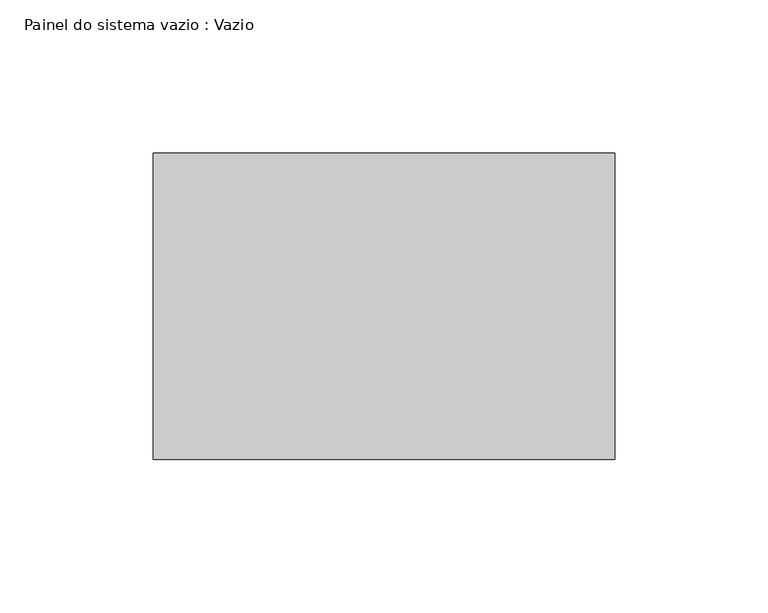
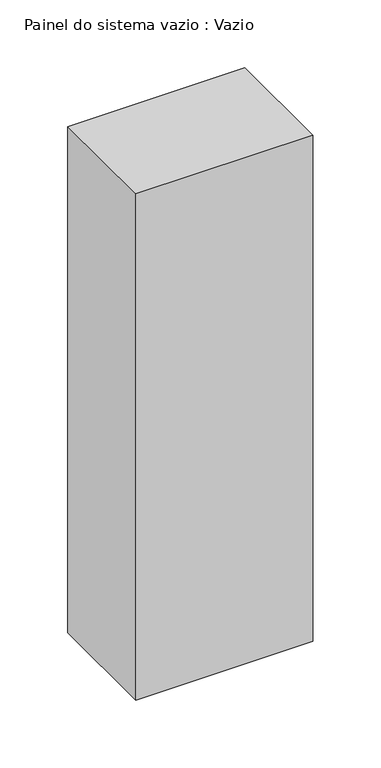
"""IFC4 building model written with IfcOpenShell, lengths in millimetres: plate geometry, Painel do sistema vazio : Vazio."""

from ifc_helpers import new_model, si_unit, origin, origin_with_axes, place, context, project, spatial, polyline, outline, extrude, source, transform, mapped, element, save


def painel_do_sistema_vazio_vazio_88ac28ff(model_context):
    return source(origin(), model_context, "Body", "SweptSolid", [
        extrude(outline(polyline([(75.2388431, -50.0), (-75.2388431, -50.0), (-75.2388431, 50.0), (75.2388431, 50.0), (75.2388431, -50.0)])), origin_with_axes(), (0.0, 0.0, 1.0), 455.0),
    ])


if __name__ == "__main__":
    model = new_model("IFC4")
    model_context = context("Model", 3, world=origin())
    ifc_project = project(units=[si_unit("LENGTHUNIT", "METRE", prefix="MILLI")], contexts=[model_context])
    site = spatial("IfcSite", under=ifc_project)
    building = spatial("IfcBuilding", under=site)
    placement = place(None, origin())
    painel_do_sistema_vazio_vazio_shape = painel_do_sistema_vazio_vazio_88ac28ff(model_context)
    element("IfcPlate", 1, ObjectType="Painel do sistema vazio : Vazio", at=placement, inside=building, context=model_context, shape_type="MappedRepresentation", body=[
        mapped(painel_do_sistema_vazio_vazio_shape, transform((0.0, 0.0, 0.0), x_axis=(1.0, 0.0, 0.0), y_axis=(0.0, 1.0, 0.0), z_axis=(0.0, 0.0, 1.0))),
    ])
    save(model, "model.ifc")
